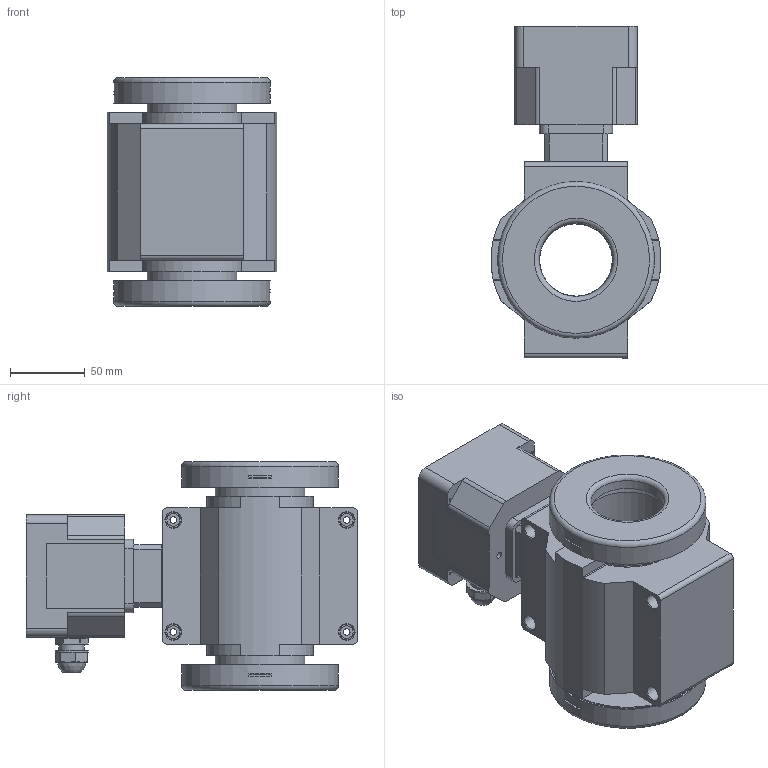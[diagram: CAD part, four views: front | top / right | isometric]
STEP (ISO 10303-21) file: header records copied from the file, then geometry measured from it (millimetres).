
FILE_DESCRIPTION(/* description */ (''),/* implementation_level */ '2;1');
FILE_NAME(/* name */ 'C:\ТЭК\Реклама\ПРЭМ-50S\ПРЭМ-50S.stp',/* time_stamp */ '2020-01-28T15:26:30+03:00',/* author */ ('Kishalov.m'),/* organization */ (''),/* preprocessor_version */ 'ST-DEVELOPER v18',/* originating_system */ 'Autodesk Inventor 2020',/* authorisation */ '');
FILE_SCHEMA (('AUTOMOTIVE_DESIGN { 1 0 10303 214 3 1 1 }'));
Products named in the file (1): ПРЭМ-50S
Bounding box: 113.66 x 222 x 153 mm (x, y, z)
Volume: 647390.4 mm3; surface area: 349215.3 mm2
Topology: 7 solids, 7 shells, 2569 faces, 6747 edges, 4298 vertices
Faces by surface type: plane 1468, cylinder 485, bspline 461, sphere 92, cone 39, torus 24
Full cylindrical faces by diameter (mm): 0.431 x1, 0.546 x1, 1.159 x2, 1.5 x2, 1.7 x4, 1.8 x8, 2 x4, 2.5 x4, 3 x4, 3.242 x4, 4.2 x1, 4.5 x12, 4.7 x4, 4.9 x4, 5.472 x1, 5.5 x3, 7.5 x4, 8.5 x12, 10.3 x8, 11 x8, 12 x2, 13 x2, 17 x6, 19.094 x2, 20.5 x1, 56 x3, 59 x2, 59.1 x2, 60 x1, 60.5 x4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
Entity records: 88644 total; most frequent: CARTESIAN_POINT 25170, ORIENTED_EDGE 13306, DIRECTION 11221, EDGE_CURVE 6653, LINE 4439, VECTOR 4439, VERTEX_POINT 4298, AXIS2_PLACEMENT_3D 3391
